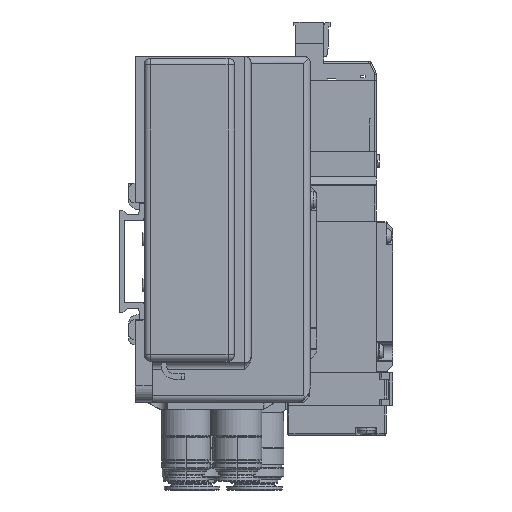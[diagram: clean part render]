
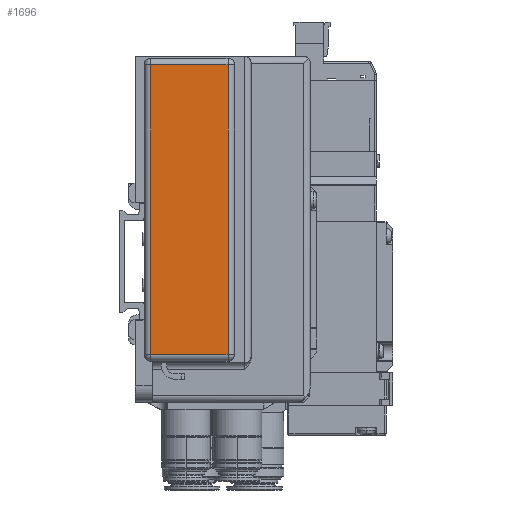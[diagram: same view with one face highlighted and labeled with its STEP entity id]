
A CAD part, left-side view. The second image highlights one B-rep face of the part: STEP entity #1696.
In plain terms, the highlighted planar face has unit normal (-1, 0, 0).
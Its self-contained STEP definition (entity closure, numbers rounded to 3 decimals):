
#1696=ADVANCED_FACE('',(#11469),#11468,.T.);
#11468=PLANE('',#20957);
#11469=FACE_OUTER_BOUND('',#20958,.T.);
#20954=CARTESIAN_POINT('',(-3.,-35.35,-37.1));
#20955=DIRECTION('',(-1.,0.,0.));
#20956=DIRECTION('',(0.,0.,1.));
#20957=AXIS2_PLACEMENT_3D('',#20954,#20955,#20956);
#20958=EDGE_LOOP('',(#33397,#33398,#33399,#33400));
#33397=ORIENTED_EDGE('',*,*,#40421,.T.);
#33398=ORIENTED_EDGE('',*,*,#40422,.T.);
#33399=ORIENTED_EDGE('',*,*,#40423,.T.);
#33400=ORIENTED_EDGE('',*,*,#40424,.T.);
#40421=EDGE_CURVE('',#60181,#60182,#60183,.T.);
#40422=EDGE_CURVE('',#60182,#60072,#60189,.T.);
#40423=EDGE_CURVE('',#60072,#60195,#60196,.T.);
#40424=EDGE_CURVE('',#60195,#60181,#60202,.T.);
#60072=VERTEX_POINT('',#77409);
#60181=VERTEX_POINT('',#77472);
#60182=VERTEX_POINT('',#77473);
#60183=LINE('',#77474,#77475);
#60189=LINE('',#77477,#77478);
#60195=VERTEX_POINT('',#77480);
#60196=LINE('',#77481,#77482);
#60202=LINE('',#77484,#77485);
#77409=CARTESIAN_POINT('',(-3.,-33.,-28.3));
#77472=CARTESIAN_POINT('',(-3.,-9.5,59.7));
#77473=CARTESIAN_POINT('',(-3.,-9.5,-28.3));
#77474=CARTESIAN_POINT('',(-3.,-9.5,59.7));
#77475=VECTOR('',#77476,88.);
#77476=DIRECTION('',(0.,0.,-1.));
#77477=CARTESIAN_POINT('',(-3.,-9.5,-28.3));
#77478=VECTOR('',#77479,23.5);
#77479=DIRECTION('',(0.,-1.,0.));
#77480=CARTESIAN_POINT('',(-3.,-33.,59.7));
#77481=CARTESIAN_POINT('',(-3.,-33.,-28.3));
#77482=VECTOR('',#77483,88.);
#77483=DIRECTION('',(0.,0.,1.));
#77484=CARTESIAN_POINT('',(-3.,-33.,59.7));
#77485=VECTOR('',#77486,23.5);
#77486=DIRECTION('',(0.,1.,0.));
